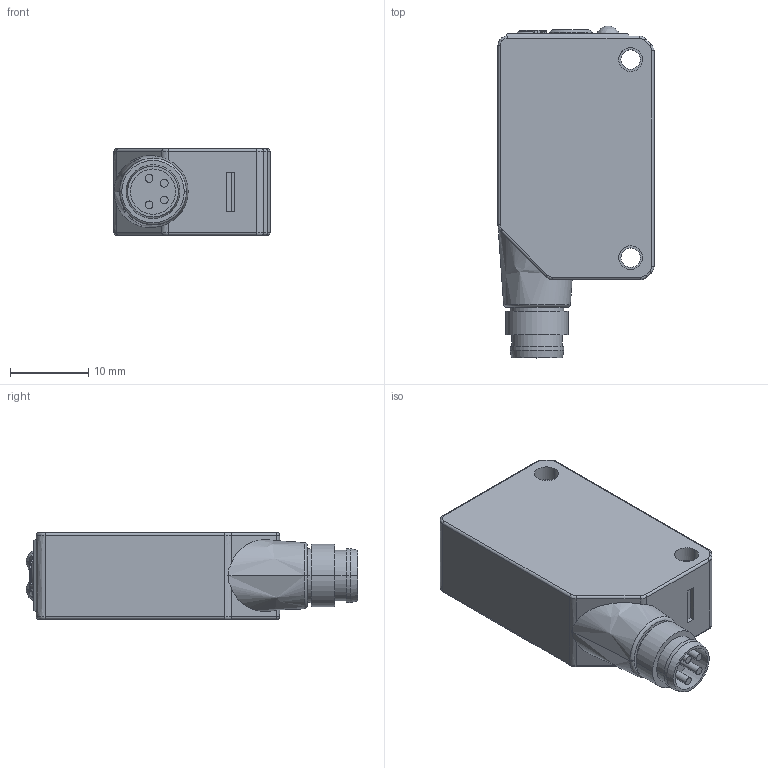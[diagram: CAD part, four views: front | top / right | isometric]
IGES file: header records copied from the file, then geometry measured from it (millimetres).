
Start section: Elysium IGES Interface
Global section: file name: Z:\mikata\aa\BGS-Z_Connector_Type.sat.igs; native system: SolidDesigner 15.00A  14-Mar-2007; preprocessor: OneSpace IGES_3D V2.2; author: Unknown; organization: Unknown; date: 20110426.103453; units: millimetre
Bounding box: 20 x 42.55 x 11.1 mm (x, y, z)
Volume: 7129.4 mm3; surface area: 2885.7 mm2
Topology: 1 solids, 1 shells, 243 faces, 598 edges, 375 vertices
Faces by surface type: bspline 243
